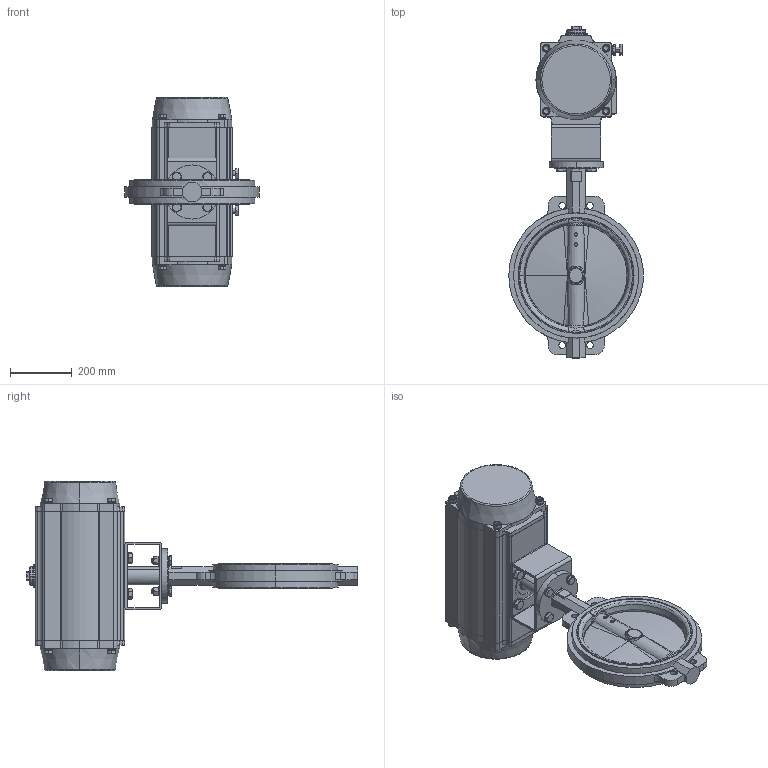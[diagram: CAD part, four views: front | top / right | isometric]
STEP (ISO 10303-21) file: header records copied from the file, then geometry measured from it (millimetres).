
FILE_DESCRIPTION (( 'STEP AP214' ), '1' );
FILE_NAME ('VPE440X-N07XX0350.STEP', '2020-09-03T15:52:26', ( '' ), ( '' ), 'SwSTEP 2.0', 'SolidWorks 2017', '' );
FILE_SCHEMA (( 'AUTOMOTIVE_DESIGN' ));
Length unit declared in the file: millimetre
Products named in the file (1): VPE440X-N07XX0350
Bounding box: 435.21 x 1074.5 x 612 mm (x, y, z)
Surface area: 1717417.1 mm2 (no closed solid volume)
Topology: 0 solids, 79 shells, 778 faces, 2362 edges, 1641 vertices
Faces by surface type: plane 314, cylinder 251, cone 133, bspline 60, torus 18, sphere 2
Entity records: 44641 total; most frequent: CARTESIAN_POINT 15809, DIRECTION 4155, ORIENTED_EDGE 3924, EDGE_CURVE 2360, VERTEX_POINT 1641, AXIS2_PLACEMENT_3D 1636, CIRCLE 917, EDGE_LOOP 897
